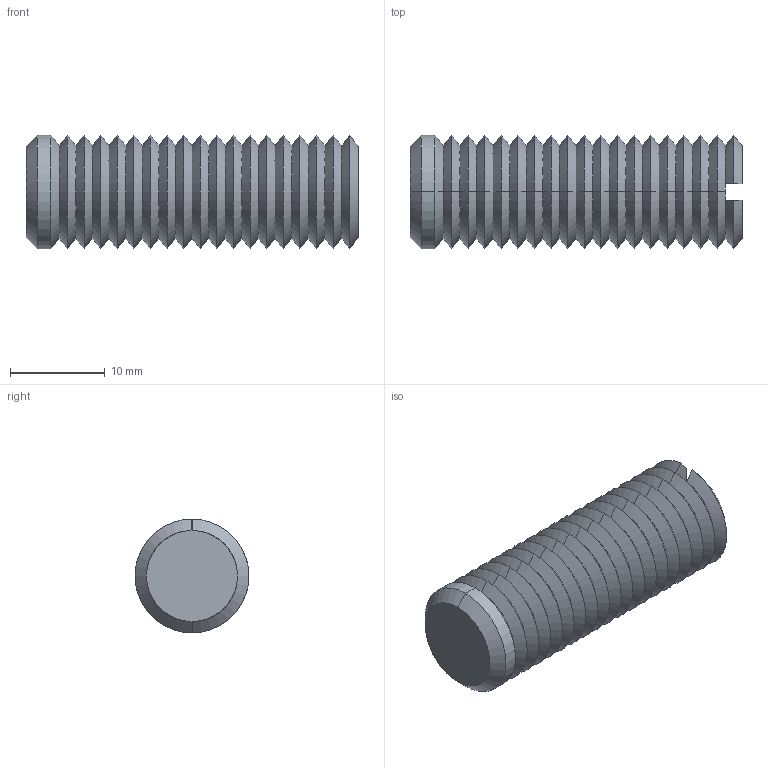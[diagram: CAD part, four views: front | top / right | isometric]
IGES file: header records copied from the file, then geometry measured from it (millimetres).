
Start section: SolidWorks IGES file using analytic representation for surfaces
Global section: file name: C:\Documents and Settings\IANO\Desktop\Temp File\Process pending\EXISTING\34300_v2\34300_v2_20170622_IGES\34300.W0121.igs; native system: SolidWorks 2009; preprocessor: SolidWorks 2009; author: IANO; date: 170622.094146; units: millimetre
Bounding box: 35 x 12 x 12 mm (x, y, z)
Surface area: 2062.1 mm2 (no closed solid volume)
Topology: 0 solids, 0 shells, 84 faces, 400 edges, 400 vertices
Faces by surface type: revolution 78, bspline 6
